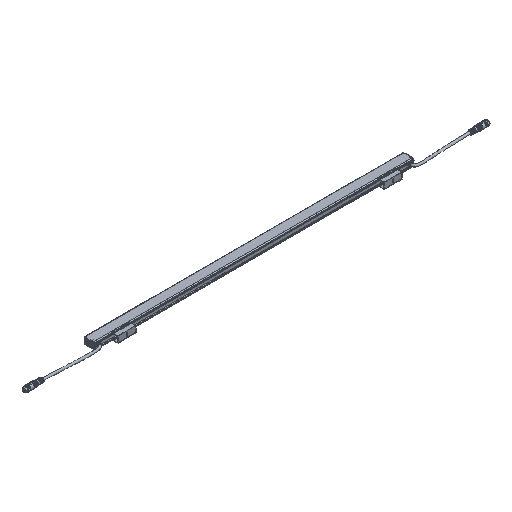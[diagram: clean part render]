
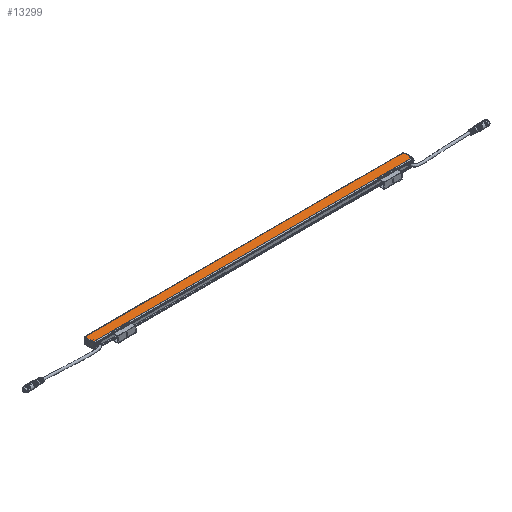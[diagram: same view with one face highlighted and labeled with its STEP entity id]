
A CAD part, isometric view. The second image highlights one B-rep face of the part: STEP entity #13299.
In plain terms, the highlighted planar face has unit normal (0, 0, 1).
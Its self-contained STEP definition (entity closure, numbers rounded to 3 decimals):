
#199 = CARTESIAN_POINT ( 'NONE',  ( -449.5, 20.786, 9.15 ) ) ;
#576 = EDGE_CURVE ( 'NONE', #39327, #31737, #37435, .T. ) ;
#1462 = LINE ( 'NONE', #5826, #2352 ) ;
#2100 = ORIENTED_EDGE ( 'NONE', *, *, #576, .T. ) ;
#2352 = VECTOR ( 'NONE', #33435, 1000. ) ;
#3372 = CARTESIAN_POINT ( 'NONE',  ( -148., 45.5, 9.15 ) ) ;
#3453 = EDGE_CURVE ( 'NONE', #50448, #43940, #25155, .T. ) ;
#5691 = EDGE_CURVE ( 'NONE', #39327, #9058, #45301, .T. ) ;
#5826 = CARTESIAN_POINT ( 'NONE',  ( -449.5, 0., 9.15 ) ) ;
#7737 = DIRECTION ( 'NONE',  ( 1., 0., 0. ) ) ;
#8301 = LINE ( 'NONE', #53447, #18180 ) ;
#9058 = VERTEX_POINT ( 'NONE', #199 ) ;
#9909 = EDGE_LOOP ( 'NONE', ( #52153, #47682, #51602, #43516, #2100, #44395 ) ) ;
#13299 = ADVANCED_FACE ( 'NONE', ( #26773 ), #17408, .F. ) ;
#17357 = VECTOR ( 'NONE', #56289, 1000. ) ;
#17408 = PLANE ( 'NONE',  #35304 ) ;
#18180 = VECTOR ( 'NONE', #39746, 1000. ) ;
#20064 = LINE ( 'NONE', #3372, #22850 ) ;
#20498 = CARTESIAN_POINT ( 'NONE',  ( 448., 45.5, 9.15 ) ) ;
#22850 = VECTOR ( 'NONE', #7737, 1000. ) ;
#23793 = DIRECTION ( 'NONE',  ( -1., 0., 0. ) ) ;
#25155 = LINE ( 'NONE', #20498, #17357 ) ;
#26247 = CARTESIAN_POINT ( 'NONE',  ( 448., 20.786, 9.15 ) ) ;
#26773 = FACE_OUTER_BOUND ( 'NONE', #9909, .T. ) ;
#27260 = VECTOR ( 'NONE', #23793, 1000. ) ;
#28853 = DIRECTION ( 'NONE',  ( 0., 1., 0. ) ) ;
#30490 = EDGE_CURVE ( 'NONE', #50448, #34741, #20064, .T. ) ;
#30587 = CARTESIAN_POINT ( 'NONE',  ( 148., 45.5, 9.15 ) ) ;
#31040 = CARTESIAN_POINT ( 'NONE',  ( -148., 45.5, 9.15 ) ) ;
#31737 = VERTEX_POINT ( 'NONE', #49009 ) ;
#33435 = DIRECTION ( 'NONE',  ( 0., -1., 0. ) ) ;
#34355 = EDGE_CURVE ( 'NONE', #31737, #34741, #8301, .T. ) ;
#34741 = VERTEX_POINT ( 'NONE', #30587 ) ;
#35304 = AXIS2_PLACEMENT_3D ( 'NONE', #40624, #35396, #36265 ) ;
#35396 = DIRECTION ( 'NONE',  ( 0., 0., -1. ) ) ;
#35410 = VECTOR ( 'NONE', #28853, 1000. ) ;
#36265 = DIRECTION ( 'NONE',  ( 0., 1., 0. ) ) ;
#36702 = CARTESIAN_POINT ( 'NONE',  ( -449.5, 45.5, 9.15 ) ) ;
#37435 = LINE ( 'NONE', #54658, #35410 ) ;
#39327 = VERTEX_POINT ( 'NONE', #49098 ) ;
#39746 = DIRECTION ( 'NONE',  ( -1., 0., 0. ) ) ;
#40624 = CARTESIAN_POINT ( 'NONE',  ( 448., 0., 9.15 ) ) ;
#43516 = ORIENTED_EDGE ( 'NONE', *, *, #5691, .F. ) ;
#43940 = VERTEX_POINT ( 'NONE', #36702 ) ;
#44395 = ORIENTED_EDGE ( 'NONE', *, *, #34355, .T. ) ;
#45301 = LINE ( 'NONE', #26247, #27260 ) ;
#46530 = EDGE_CURVE ( 'NONE', #43940, #9058, #1462, .T. ) ;
#47682 = ORIENTED_EDGE ( 'NONE', *, *, #3453, .T. ) ;
#49009 = CARTESIAN_POINT ( 'NONE',  ( 449.5, 45.5, 9.15 ) ) ;
#49098 = CARTESIAN_POINT ( 'NONE',  ( 449.5, 20.786, 9.15 ) ) ;
#50448 = VERTEX_POINT ( 'NONE', #31040 ) ;
#51602 = ORIENTED_EDGE ( 'NONE', *, *, #46530, .T. ) ;
#52153 = ORIENTED_EDGE ( 'NONE', *, *, #30490, .F. ) ;
#53447 = CARTESIAN_POINT ( 'NONE',  ( 448., 45.5, 9.15 ) ) ;
#54658 = CARTESIAN_POINT ( 'NONE',  ( 449.5, 50.842, 9.15 ) ) ;
#56289 = DIRECTION ( 'NONE',  ( -1., 0., 0. ) ) ;
